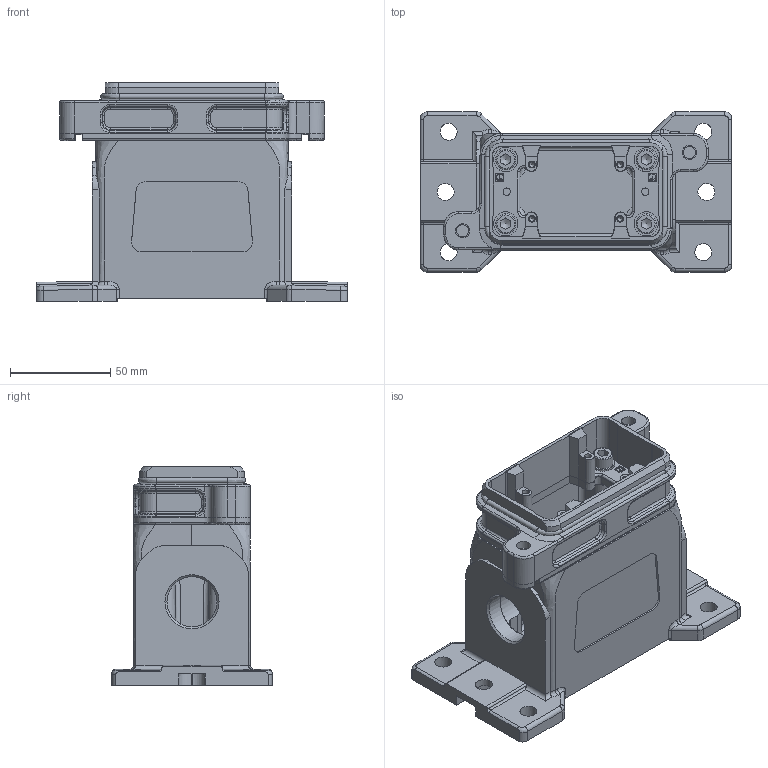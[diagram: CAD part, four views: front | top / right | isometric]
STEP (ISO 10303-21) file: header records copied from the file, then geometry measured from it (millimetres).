
FILE_DESCRIPTION(/* description */ (''),/* implementation_level */ '2;1');
FILE_NAME(/* name */ '100176634ugm000_g.stp',/* time_stamp */ '2022-07-27T15:24:14+02:00',/* author */ (''),/* organization */ (''),/* preprocessor_version */ 'ST-DEVELOPER v16.7',/* originating_system */ 'SIEMENS PLM Software NX 1911',/* authorisation */ '');
FILE_SCHEMA (('AUTOMOTIVE_DESIGN { 1 0 10303 214 3 1 1 1 }'));
Length unit declared in the file: millimetre
Products named in the file (1): 100176634ugm000_g
Bounding box: 155 x 80 x 109.1 mm (x, y, z)
Volume: 321009.7 mm3; surface area: 90178.2 mm2
Topology: 1 solids, 3 shells, 1004 faces, 2597 edges, 1642 vertices
Faces by surface type: plane 546, cylinder 272, bspline 114, cone 44, torus 26, extrusion 2
Full cylindrical faces by diameter (mm): 2.74 x4, 2.75 x1, 3.25 x1, 3.504 x1, 3.577 x1, 3.7 x2, 3.718 x1, 3.796 x1, 6 x2, 7.1 x2, 8.5 x6, 10 x4, 12 x4, 25 x1
Entity records: 39452 total; most frequent: CARTESIAN_POINT 8773, ORIENTED_EDGE 5028, DIRECTION 4759, EDGE_CURVE 2514, AXIS2_PLACEMENT_3D 1626, VERTEX_POINT 1620, VECTOR 1507, LINE 1505
